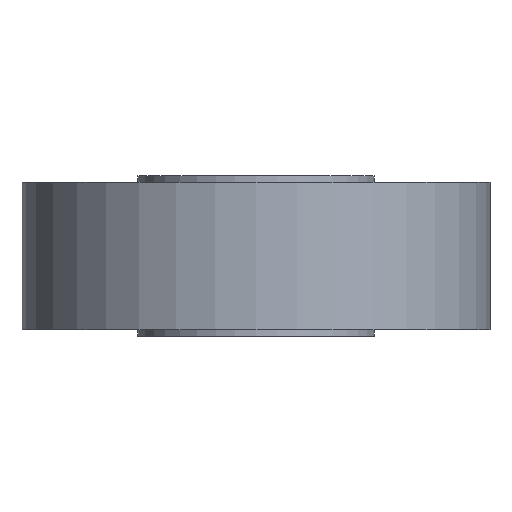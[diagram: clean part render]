
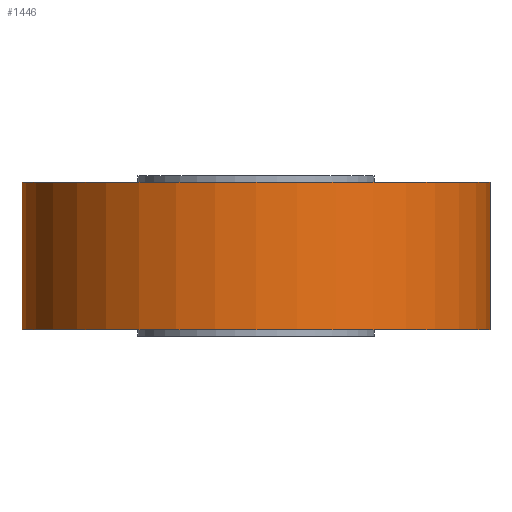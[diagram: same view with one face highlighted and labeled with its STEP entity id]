
A CAD part, front view. The second image highlights one B-rep face of the part: STEP entity #1446.
In plain terms, the highlighted cylindrical face has radius 17.5 mm (diameter 35 mm), a full revolution.
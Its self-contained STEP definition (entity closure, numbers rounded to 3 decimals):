
#30=B_SPLINE_CURVE_WITH_KNOTS('',3,(#2400,#2401,#2402,#2403,#2404,#2405,
#2406,#2407,#2408,#2409,#2410,#2411,#2412,#2413,#2414,#2415,#2416,#2417,
#2418),.UNSPECIFIED.,.F.,.F.,(4,2,2,2,3,2,2,2,4),(2.274,2.463,
2.653,2.842,3.032,3.221,3.411,
3.6,3.79),.UNSPECIFIED.);
#31=B_SPLINE_CURVE_WITH_KNOTS('',3,(#2419,#2420,#2421,#2422,#2423,#2424,
#2425,#2426,#2427,#2428,#2429,#2430,#2431,#2432,#2433,#2434,#2435,#2436),
 .UNSPECIFIED.,.F.,.F.,(4,2,2,2,2,2,2,2,4),(0.758,0.947,
1.137,1.326,1.516,1.705,1.895,
2.084,2.274),.UNSPECIFIED.);
#55=FACE_BOUND('',#231,.T.);
#134=FACE_OUTER_BOUND('',#230,.T.);
#230=EDGE_LOOP('',(#1055,#1056,#1057,#1058,#1059,#1060));
#231=EDGE_LOOP('',(#1061,#1062));
#320=LINE('',#2394,#389);
#389=VECTOR('',#1899,17.5);
#488=CIRCLE('',#1593,17.5);
#489=CIRCLE('',#1594,17.5);
#490=CIRCLE('',#1596,17.5);
#491=CIRCLE('',#1597,17.5);
#621=VERTEX_POINT('',#2388);
#622=VERTEX_POINT('',#2389);
#623=VERTEX_POINT('',#2393);
#624=VERTEX_POINT('',#2395);
#625=VERTEX_POINT('',#2398);
#626=VERTEX_POINT('',#2399);
#787=EDGE_CURVE('',#621,#622,#488,.T.);
#788=EDGE_CURVE('',#622,#621,#489,.T.);
#789=EDGE_CURVE('',#622,#623,#320,.T.);
#790=EDGE_CURVE('',#623,#624,#490,.T.);
#791=EDGE_CURVE('',#624,#623,#491,.T.);
#792=EDGE_CURVE('',#625,#626,#30,.T.);
#793=EDGE_CURVE('',#626,#625,#31,.T.);
#1055=ORIENTED_EDGE('',*,*,#787,.F.);
#1056=ORIENTED_EDGE('',*,*,#788,.F.);
#1057=ORIENTED_EDGE('',*,*,#789,.T.);
#1058=ORIENTED_EDGE('',*,*,#790,.T.);
#1059=ORIENTED_EDGE('',*,*,#791,.T.);
#1060=ORIENTED_EDGE('',*,*,#789,.F.);
#1061=ORIENTED_EDGE('',*,*,#792,.T.);
#1062=ORIENTED_EDGE('',*,*,#793,.T.);
#1400=CYLINDRICAL_SURFACE('',#1595,17.5);
#1446=ADVANCED_FACE('',(#134,#55),#1400,.T.);
#1593=AXIS2_PLACEMENT_3D('',#2390,#1893,#1894);
#1594=AXIS2_PLACEMENT_3D('',#2391,#1895,#1896);
#1595=AXIS2_PLACEMENT_3D('',#2392,#1897,#1898);
#1596=AXIS2_PLACEMENT_3D('',#2396,#1900,#1901);
#1597=AXIS2_PLACEMENT_3D('',#2397,#1902,#1903);
#1893=DIRECTION('center_axis',(0.,0.,1.));
#1894=DIRECTION('ref_axis',(1.,0.,0.));
#1895=DIRECTION('center_axis',(0.,0.,1.));
#1896=DIRECTION('ref_axis',(1.,0.,0.));
#1897=DIRECTION('center_axis',(0.,0.,1.));
#1898=DIRECTION('ref_axis',(1.,0.,0.));
#1899=DIRECTION('',(0.,0.,-1.));
#1900=DIRECTION('center_axis',(0.,0.,1.));
#1901=DIRECTION('ref_axis',(1.,0.,0.));
#1902=DIRECTION('center_axis',(0.,0.,1.));
#1903=DIRECTION('ref_axis',(1.,0.,0.));
#2388=CARTESIAN_POINT('',(17.5,0.,11.5));
#2389=CARTESIAN_POINT('',(-17.5,0.,11.5));
#2390=CARTESIAN_POINT('Origin',(0.,0.,11.5));
#2391=CARTESIAN_POINT('Origin',(0.,0.,11.5));
#2392=CARTESIAN_POINT('Origin',(0.,0.,6.));
#2393=CARTESIAN_POINT('',(-17.5,0.,0.5));
#2394=CARTESIAN_POINT('',(-17.5,0.,6.));
#2395=CARTESIAN_POINT('',(17.5,0.,0.5));
#2396=CARTESIAN_POINT('Origin',(0.,0.,0.5));
#2397=CARTESIAN_POINT('Origin',(0.,0.,0.5));
#2398=CARTESIAN_POINT('',(0.,17.5,1.));
#2399=CARTESIAN_POINT('',(0.,17.5,11.));
#2400=CARTESIAN_POINT('Ctrl Pts',(0.,17.5,1.));
#2401=CARTESIAN_POINT('Ctrl Pts',(0.632,17.5,1.));
#2402=CARTESIAN_POINT('Ctrl Pts',(1.303,17.462,1.127));
#2403=CARTESIAN_POINT('Ctrl Pts',(2.534,17.327,1.638));
#2404=CARTESIAN_POINT('Ctrl Pts',(3.094,17.23,2.023));
#2405=CARTESIAN_POINT('Ctrl Pts',(3.978,17.048,2.906));
#2406=CARTESIAN_POINT('Ctrl Pts',(4.362,16.95,3.466));
#2407=CARTESIAN_POINT('Ctrl Pts',(4.873,16.81,4.697));
#2408=CARTESIAN_POINT('Ctrl Pts',(5.,16.771,5.368));
#2409=CARTESIAN_POINT('Ctrl Pts',(5.,16.771,6.));
#2410=CARTESIAN_POINT('Ctrl Pts',(5.,16.771,6.632));
#2411=CARTESIAN_POINT('Ctrl Pts',(4.873,16.81,7.303));
#2412=CARTESIAN_POINT('Ctrl Pts',(4.362,16.95,8.534));
#2413=CARTESIAN_POINT('Ctrl Pts',(3.978,17.048,9.094));
#2414=CARTESIAN_POINT('Ctrl Pts',(3.094,17.23,9.977));
#2415=CARTESIAN_POINT('Ctrl Pts',(2.534,17.327,10.362));
#2416=CARTESIAN_POINT('Ctrl Pts',(1.303,17.462,10.873));
#2417=CARTESIAN_POINT('Ctrl Pts',(0.632,17.5,11.));
#2418=CARTESIAN_POINT('Ctrl Pts',(0.,17.5,11.));
#2419=CARTESIAN_POINT('Ctrl Pts',(0.,17.5,11.));
#2420=CARTESIAN_POINT('Ctrl Pts',(-0.632,17.5,11.));
#2421=CARTESIAN_POINT('Ctrl Pts',(-1.303,17.462,10.873));
#2422=CARTESIAN_POINT('Ctrl Pts',(-2.534,17.327,10.362));
#2423=CARTESIAN_POINT('Ctrl Pts',(-3.094,17.23,9.977));
#2424=CARTESIAN_POINT('Ctrl Pts',(-3.978,17.048,9.094));
#2425=CARTESIAN_POINT('Ctrl Pts',(-4.362,16.95,8.534));
#2426=CARTESIAN_POINT('Ctrl Pts',(-4.873,16.81,7.303));
#2427=CARTESIAN_POINT('Ctrl Pts',(-5.,16.771,6.632));
#2428=CARTESIAN_POINT('Ctrl Pts',(-5.,16.771,5.368));
#2429=CARTESIAN_POINT('Ctrl Pts',(-4.873,16.81,4.697));
#2430=CARTESIAN_POINT('Ctrl Pts',(-4.362,16.95,3.466));
#2431=CARTESIAN_POINT('Ctrl Pts',(-3.978,17.048,2.906));
#2432=CARTESIAN_POINT('Ctrl Pts',(-3.094,17.23,2.023));
#2433=CARTESIAN_POINT('Ctrl Pts',(-2.534,17.327,1.638));
#2434=CARTESIAN_POINT('Ctrl Pts',(-1.303,17.462,1.127));
#2435=CARTESIAN_POINT('Ctrl Pts',(-0.632,17.5,1.));
#2436=CARTESIAN_POINT('Ctrl Pts',(0.,17.5,1.));
